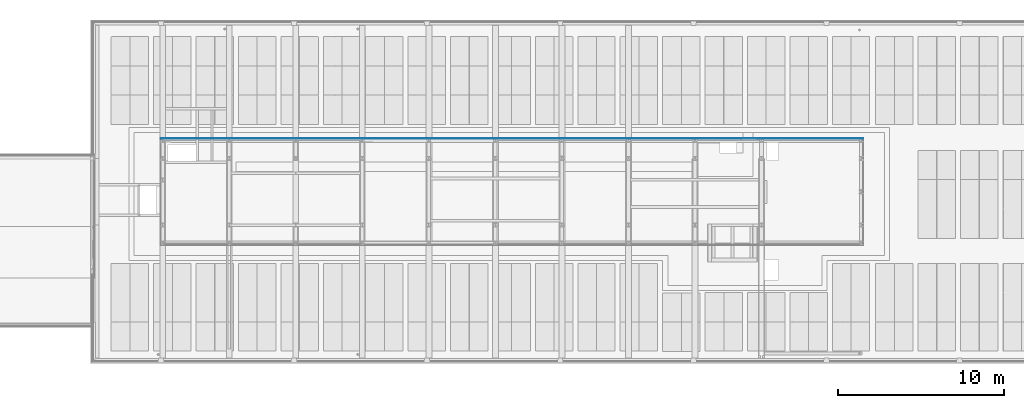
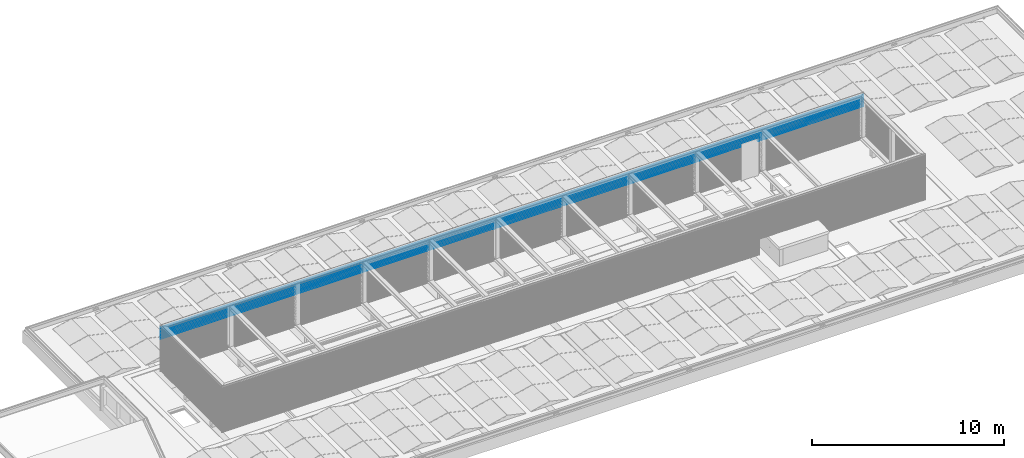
# One storey, part 48 of 63: 9 building element parts, 1 opening, 1 element without a shape of its own.
"""IFC2X3 building model written with IfcOpenShell, lengths in millimetres."""

from ifc_helpers import new_model, entity, si_unit, converted_unit, derived_unit, money_unit, direction, frame, origin_with_axes, place, context, subcontext, project, spatial, faceted_brep, material, type_object, element, aggregate, save


model = new_model("IFC2X3")

# Units and contexts
model_context = context("Model", 3, precision=0.01, world=origin_with_axes(), true_north=direction((0.0, 1.0)))
body_context = subcontext(model_context, "Body", "Model", "MODEL_VIEW")
ifc_project = project(units=[si_unit("LENGTHUNIT", "METRE", prefix="MILLI"), si_unit("AREAUNIT", "SQUARE_METRE"), si_unit("VOLUMEUNIT", "CUBIC_METRE"), converted_unit("PLANEANGLEUNIT", "DEGREE", entity("IfcPlaneAngleMeasure", 0.0174532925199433), si_unit("PLANEANGLEUNIT", "RADIAN"), dimensions=[0, 0, 0, 0, 0, 0, 0]), money_unit("EUR"), converted_unit("TIMEUNIT", "Year", entity("IfcTimeMeasure", 31557600.0), si_unit("TIMEUNIT", "SECOND"), dimensions=[0, 0, 1, 0, 0, 0, 0]), si_unit("MASSUNIT", "GRAM", prefix="KILO"), si_unit("THERMODYNAMICTEMPERATUREUNIT", "DEGREE_CELSIUS"), si_unit("LUMINOUSINTENSITYUNIT", "LUMEN"), si_unit("ENERGYUNIT", "JOULE", prefix="MEGA"), derived_unit("THERMALCONDUCTANCEUNIT", [(si_unit("POWERUNIT", "WATT"), 1), (si_unit("LENGTHUNIT", "METRE"), -1), (si_unit("THERMODYNAMICTEMPERATUREUNIT", "KELVIN"), -1)]), derived_unit("SPECIFICHEATCAPACITYUNIT", [(si_unit("ENERGYUNIT", "JOULE"), 1), (si_unit("MASSUNIT", "GRAM", prefix="KILO"), -1), (si_unit("THERMODYNAMICTEMPERATUREUNIT", "KELVIN"), -1)]), derived_unit("MASSDENSITYUNIT", [(si_unit("MASSUNIT", "GRAM", prefix="KILO"), 1), (si_unit("VOLUMEUNIT", "CUBIC_METRE"), -1)])], contexts=[model_context])

# Site, building, storey
site_placement = place(None, origin_with_axes())
site = spatial("IfcSite", under=ifc_project, at=site_placement, Name="<site naam>", CompositionType="ELEMENT")
building_placement = place(site_placement, origin_with_axes())
building = spatial("IfcBuilding", under=site, at=building_placement, Name="<Naam gebouw>", CompositionType="ELEMENT")
storey_placement = place(building_placement, frame((0.0, 0.0, 12770.0), z_axis=(0.0, 0.0, 1.0), x_axis=(1.0, 0.0, 0.0)))
storey = spatial("IfcBuildingStorey", under=building, at=storey_placement, Name="04 4e verdieping", CompositionType="ELEMENT", Elevation=12770.0)

# Wall, opening, building element parts
wall_type = type_object("IfcWallType", Name="Gevelbeplating golf 18 x 2900", PredefinedType="NOTDEFINED")
wall_placement = place(storey_placement, frame((58128.00007858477, 13218.00009009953, 299.9552842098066), z_axis=(0.0, 0.0, 1.0), x_axis=(-1.0, 0.0, 0.0)))
wall = element("IfcWall", 1, at=wall_placement, inside=storey, type_object=wall_type, Name="47_Binnenwand_Gevelbeplating")
opening_placement = place(wall_placement, frame((6856.073474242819, 0.0, -120.0392154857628), z_axis=(0.0, 0.0, 1.0), x_axis=(1.0, 0.0, 0.0)))
element("IfcOpeningElement", 2, at=opening_placement, cuts=wall, Name="47_BU-F-02_305", context=body_context, shape_type="Brep", body=[
    faceted_brep([(517.000000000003, 19.00000000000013, 2367.000000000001), (517.000000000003, 19.00000000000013, 0.0), (-517.000000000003, 19.00000000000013, 0.0), (-517.000000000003, 19.00000000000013, 2367.000000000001), (517.000000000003, -1.000078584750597, 2367.000000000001), (517.000000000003, -1.000078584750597, 0.0), (-517.000000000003, -1.000078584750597, 0.0), (-517.000000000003, -1.000078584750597, 2367.000000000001)], [[[0, 1, 2, 3]], [[4, 5, 1, 0]], [[5, 6, 2, 1]], [[6, 7, 3, 2]], [[7, 4, 0, 3]], [[6, 5, 4, 7]]]),
])
ifc_material = material(Name="gevelafwerking type 3 - Aluminium RAL1036")
building_element_part_1_placement = place(wall_placement, origin_with_axes())
building_element_part_1 = element("IfcBuildingElementPart", 3, at=building_element_part_1_placement, material=ifc_material, Name="gevelafwerking type 3 - Aluminium RAL1036", context=body_context, shape_type="Brep", body=[
    faceted_brep([(18238.00007858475, 15.62920572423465, 2062.684488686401), (18238.00007858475, 10.1433027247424, 2069.96243505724), (18018.00007858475, 10.1433027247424, 2069.96243505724), (18018.00007858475, 15.62920572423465, 2062.684488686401), (15.6292057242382, 15.62920572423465, 2062.684488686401), (9.04152651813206, 9.041526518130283, 2071.42412115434), (42247.79070067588, 9.04152651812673, 2071.42412115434), (42247.44499411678, 9.398075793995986, 2070.951100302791), (42241.4560019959, 15.62920572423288, 2062.684488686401), (18238.00007858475, 17.9999428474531, 2051.999995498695), (18238.00007858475, 16.99994046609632, 2051.999995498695), (18238.00007858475, 14.77513994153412, 2062.365676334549), (18238.00007858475, 10.1433027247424, 2068.759027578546), (18018.00007858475, 10.1433027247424, 2068.759027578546), (18018.00007858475, 14.77513994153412, 2062.365676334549), (18018.00007858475, 16.99994046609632, 2051.999995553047), (18018.00007858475, 17.9999428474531, 2051.999995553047), (17.9999428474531, 17.9999428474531, 2052.0), (15.6292057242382, 14.54416758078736, 2062.684488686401), (9.398075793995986, 8.555195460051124, 2070.951100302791), (9.04152651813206, 8.209483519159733, 2071.42412115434), (42253.7428684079, 3.340076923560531, 2079.568199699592), (3.116421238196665, 3.116421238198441, 2079.88767449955), (42253.81199652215, 3.116421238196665, 2079.88767449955), (42253.7428684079, 2.257301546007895, 2079.568199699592), (42247.44499411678, 8.555195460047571, 2070.951100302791), (42241.22502892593, 14.77513994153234, 2062.365676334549), (42241.22502892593, 15.69994568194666, 2062.365676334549), (42239.00022979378, 17.99994284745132, 2051.999989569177), (42239.00022979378, 16.99994046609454, 2051.999989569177), (15.69994568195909, 14.7751399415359, 2062.365676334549), (17.9999428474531, 16.9999404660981, 2052.0), (3.340076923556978, 2.257301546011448, 2079.568199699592), (3.116421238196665, 2.188169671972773, 2079.88767449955), (42256.00025512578, 0.9999428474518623, 2090.000002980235), (0.9999428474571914, 0.9999428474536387, 2090.0), (42256.00025512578, -5.715254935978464e-05, 2090.000002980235), (0.9999428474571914, -5.715254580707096e-05, 2090.0)], [[[0, 1, 2, 3, 4, 5, 6, 7, 8]], [[1, 0, 9, 10, 11, 12]], [[2, 1, 12, 13]], [[3, 2, 13, 14, 15, 16]], [[3, 16, 17, 4]], [[4, 18, 19, 20, 5]], [[21, 6, 5, 22, 23]], [[24, 25, 7, 6, 21]], [[25, 26, 27, 8, 7]], [[9, 0, 8, 27, 28]], [[10, 9, 28, 29]], [[11, 10, 29, 26]], [[12, 11, 26, 25, 19, 18, 30, 14, 13]], [[15, 14, 30, 31]], [[16, 15, 31, 17]], [[17, 31, 30, 18, 4]], [[24, 32, 20, 19, 25]], [[5, 20, 32, 33, 22]], [[34, 23, 22, 35]], [[36, 24, 21, 23, 34]], [[27, 26, 29, 28]], [[36, 37, 33, 32, 24]], [[35, 22, 33, 37]], [[36, 34, 35, 37]]]),
])
building_element_part_2_placement = place(wall_placement, origin_with_axes())
building_element_part_2 = element("IfcBuildingElementPart", 4, at=building_element_part_2_placement, material=ifc_material, Name="gevelafwerking type 3 - Aluminium RAL1036", context=body_context, shape_type="Brep", body=[
    faceted_brep([(18238.00007858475, 15.62920334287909, 2138.684488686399), (18238.00007858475, 10.1433027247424, 2145.962431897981), (18018.00007858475, 10.1433027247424, 2145.962431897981), (18018.00007858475, 15.62920334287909, 2138.684488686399), (15.62920334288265, 15.62920334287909, 2138.684488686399), (9.041524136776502, 9.041524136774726, 2147.424121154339), (42247.79068574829, 9.041524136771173, 2147.424121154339), (42247.44499411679, 9.398053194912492, 2146.951127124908), (42241.45598256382, 15.62920334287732, 2138.684488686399), (18238.00007858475, 17.99994046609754, 2128.000007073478), (18238.00007858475, 16.99993808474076, 2128.000007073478), (18238.00007858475, 14.77513756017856, 2138.365703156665), (18238.00007858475, 10.1433027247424, 2144.759051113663), (18018.00007858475, 10.1433027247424, 2144.759051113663), (18018.00007858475, 14.77513756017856, 2138.365703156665), (18018.00007858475, 16.99993808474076, 2128.000006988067), (18018.00007858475, 17.99994046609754, 2128.000006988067), (17.99994046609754, 17.99994046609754, 2127.999999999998), (15.62920334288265, 14.54418463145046, 2138.684488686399), (9.398053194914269, 8.55519307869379, 2146.951127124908), (9.041524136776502, 8.209500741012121, 2147.424121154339), (42253.74287308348, 3.340055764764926, 2155.568226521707), (3.116418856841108, 3.116418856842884, 2155.887674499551), (42253.81200006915, 3.116418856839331, 2155.887674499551), (42253.74287308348, 2.257299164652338, 2155.568226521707), (42247.44499411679, 8.555193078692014, 2146.951127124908), (42241.22502892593, 15.69993734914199, 2138.365703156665), (42241.22502892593, 14.77513756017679, 2138.365703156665), (42239.00022979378, 17.99994046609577, 2128.000016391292), (42239.00022979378, 16.99993808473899, 2128.000016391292), (15.69993734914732, 14.77513756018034, 2138.365703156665), (17.99994046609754, 16.99993808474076, 2127.999999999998), (3.340055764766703, 2.257299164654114, 2155.568226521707), (3.116418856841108, 2.188173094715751, 2155.887674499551), (42256.00025512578, 0.9999404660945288, 2165.999986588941), (0.9999404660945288, 0.9999404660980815, 2165.999999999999), (42256.00025512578, -5.953390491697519e-05, 2165.999986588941), (0.9999404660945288, -5.953390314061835e-05, 2165.999999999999)], [[[0, 1, 2, 3, 4, 5, 6, 7, 8]], [[1, 0, 9, 10, 11, 12]], [[2, 1, 12, 13]], [[3, 2, 13, 14, 15, 16]], [[3, 16, 17, 4]], [[4, 18, 19, 20, 5]], [[21, 6, 5, 22, 23]], [[7, 6, 21, 24, 25]], [[26, 8, 7, 25, 27]], [[9, 0, 8, 26, 28]], [[10, 9, 28, 29]], [[11, 10, 29, 27]], [[12, 11, 27, 25, 19, 18, 30, 14, 13]], [[15, 14, 30, 31]], [[16, 15, 31, 17]], [[17, 31, 30, 18, 4]], [[24, 32, 20, 19, 25]], [[5, 20, 32, 33, 22]], [[34, 23, 22, 35]], [[21, 23, 34, 36, 24]], [[29, 28, 26, 27]], [[36, 37, 33, 32, 24]], [[35, 22, 33, 37]], [[36, 34, 35, 37]]]),
])
building_element_part_3_placement = place(wall_placement, origin_with_axes())
building_element_part_3 = element("IfcBuildingElementPart", 5, at=building_element_part_3_placement, material=ifc_material, Name="gevelafwerking type 3 - Aluminium RAL1036", context=body_context, shape_type="Brep", body=[
    faceted_brep([(18238.00007858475, 15.62920096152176, 2214.6844886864), (18238.00007858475, 10.1433027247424, 2221.962428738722), (18018.00007858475, 10.1433027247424, 2221.962428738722), (18018.00007858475, 15.62920096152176, 2214.6844886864), (15.62920096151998, 15.62920096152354, 2214.6844886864), (9.041521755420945, 9.041521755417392, 2223.424121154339), (42247.79069305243, 9.041521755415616, 2223.424121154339), (42247.44499411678, 9.398063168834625, 2222.951110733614), (42241.45599443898, 15.62920096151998, 2214.6844886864), (18238.00007858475, 17.99993808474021, 2203.999999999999), (18238.00007858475, 16.9999357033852, 2203.999999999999), (18238.00007858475, 14.77513517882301, 2214.365686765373), (18238.00007858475, 10.1433027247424, 2220.759031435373), (18018.00007858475, 10.1433027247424, 2220.759031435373), (18018.00007858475, 14.77513517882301, 2214.365686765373), (18018.00007858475, 16.9999357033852, 2203.999999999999), (18018.00007858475, 17.99993808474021, 2203.999999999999), (17.99993808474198, 17.99993808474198, 2203.999999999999), (15.62920096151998, 14.5441703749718, 2214.6844886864), (9.398063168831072, 8.555190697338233, 2222.951110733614), (9.041521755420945, 8.209486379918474, 2223.424121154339), (42253.7428684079, 3.340064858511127, 2231.568210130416), (3.116416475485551, 3.116416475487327, 2231.887674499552), (42253.81198958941, 3.116416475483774, 2231.887674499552), (42253.7428684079, 2.257296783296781, 2231.568210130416), (42247.44499411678, 8.555190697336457, 2222.951110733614), (42241.22502892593, 14.77513517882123, 2214.365686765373), (42241.22502892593, 15.69993860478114, 2214.365686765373), (42239.00022979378, 17.99993808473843, 2203.999999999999), (42239.00022979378, 16.99993570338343, 2203.999999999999), (15.69993860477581, 14.77513517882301, 2214.365686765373), (17.99993808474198, 16.9999357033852, 2203.999999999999), (3.340064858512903, 2.257296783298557, 2231.568210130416), (3.116416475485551, 2.188167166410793, 2231.887674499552), (42256.00025045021, 0.9999380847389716, 2242.000013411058), (0.9999380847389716, 0.999938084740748, 2241.999999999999), (42256.00025045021, -6.191526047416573e-05, 2242.000013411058), (0.9999380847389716, -6.19152586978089e-05, 2241.999999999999)], [[[0, 1, 2, 3, 4, 5, 6, 7, 8]], [[1, 0, 9, 10, 11, 12]], [[2, 1, 12, 13]], [[3, 2, 13, 14, 15, 16]], [[3, 16, 17, 4]], [[4, 18, 19, 20, 5]], [[21, 6, 5, 22, 23]], [[24, 25, 7, 6, 21]], [[25, 26, 27, 8, 7]], [[9, 0, 8, 27, 28]], [[10, 9, 28, 29]], [[11, 10, 29, 26]], [[12, 11, 26, 25, 19, 18, 30, 14, 13]], [[15, 14, 30, 31]], [[16, 15, 31, 17]], [[17, 31, 30, 18, 4]], [[24, 32, 20, 19, 25]], [[5, 20, 32, 33, 22]], [[34, 23, 22, 35]], [[36, 24, 21, 23, 34]], [[27, 26, 29, 28]], [[36, 37, 33, 32, 24]], [[35, 22, 33, 37]], [[36, 34, 35, 37]]]),
])
building_element_part_4_placement = place(wall_placement, origin_with_axes())
building_element_part_4 = element("IfcBuildingElementPart", 6, at=building_element_part_4_placement, material=ifc_material, Name="gevelafwerking type 3 - Aluminium RAL1036", context=body_context, shape_type="Brep", body=[
    faceted_brep([(18238.00007858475, 15.6291985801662, 2290.684488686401), (18238.00007858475, 10.1433027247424, 2297.962425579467), (18018.00007858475, 10.1433027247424, 2297.962425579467), (18018.00007858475, 15.6291985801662, 2290.684488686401), (15.62919858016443, 15.62919858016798, 2290.684488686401), (9.041519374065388, 9.041519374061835, 2299.42412115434), (42247.79070503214, 9.041519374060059, 2299.42412115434), (42247.44499411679, 9.398073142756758, 2298.951094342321), (42241.45600631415, 15.62919858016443, 2290.684488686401), (18238.00007858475, 17.99993570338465, 2279.999992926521), (18238.00007858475, 16.99993332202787, 2279.999992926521), (18238.00007858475, 14.77513279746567, 2290.365670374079), (18238.00007858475, 10.1433027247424, 2296.75901175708), (18018.00007858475, 10.1433027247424, 2296.75901175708), (18018.00007858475, 14.77513279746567, 2290.365670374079), (18018.00007858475, 16.99993332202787, 2279.999993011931), (18018.00007858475, 17.99993570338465, 2279.999993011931), (17.99993570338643, 17.99993570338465, 2280.0), (15.62919858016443, 14.54415611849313, 2290.684488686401), (9.398073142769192, 8.5551883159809, 2298.951094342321), (9.041519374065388, 8.20947201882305, 2299.42412115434), (42253.7428684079, 3.340073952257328, 2307.568193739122), (3.116414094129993, 3.116414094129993, 2307.887674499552), (42253.81199781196, 3.116414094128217, 2307.887674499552), (42253.7428684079, 2.257294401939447, 2307.568193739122), (42247.44499411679, 8.555188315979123, 2298.951094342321), (42241.22502892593, 14.7751327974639, 2290.365670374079), (42241.22502892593, 15.69993986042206, 2290.365670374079), (42239.00022979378, 17.99993570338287, 2279.999983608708), (42239.00022979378, 16.9999333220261, 2279.999983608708), (15.6999398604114, 14.77513279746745, 2290.365670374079), (17.99993570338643, 16.99993332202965, 2280.0), (3.340073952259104, 2.257294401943, 2307.568193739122), (3.116414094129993, 2.188161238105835, 2307.887674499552), (42256.00025512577, 0.9999357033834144, 2317.999997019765), (0.9999357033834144, 0.9999357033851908, 2318.0), (42256.00025512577, -6.429661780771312e-05, 2317.999997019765), (0.9999357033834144, -6.429661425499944e-05, 2318.0)], [[[0, 1, 2, 3, 4, 5, 6, 7, 8]], [[1, 0, 9, 10, 11, 12]], [[2, 1, 12, 13]], [[3, 2, 13, 14, 15, 16]], [[3, 16, 17, 4]], [[4, 18, 19, 20, 5]], [[21, 6, 5, 22, 23]], [[24, 25, 7, 6, 21]], [[25, 26, 27, 8, 7]], [[9, 0, 8, 27, 28]], [[10, 9, 28, 29]], [[11, 10, 29, 26]], [[12, 11, 26, 25, 19, 18, 30, 14, 13]], [[15, 14, 30, 31]], [[16, 15, 31, 17]], [[17, 31, 30, 18, 4]], [[24, 32, 20, 19, 25]], [[5, 20, 32, 33, 22]], [[34, 23, 22, 35]], [[36, 24, 21, 23, 34]], [[27, 26, 29, 28]], [[36, 37, 33, 32, 24]], [[35, 22, 33, 37]], [[36, 34, 35, 37]]]),
])
building_element_part_5_placement = place(wall_placement, origin_with_axes())
building_element_part_5 = element("IfcBuildingElementPart", 7, at=building_element_part_5_placement, material=ifc_material, Name="gevelafwerking type 3 - Aluminium RAL1036", context=body_context, shape_type="Brep", body=[
    faceted_brep([(18238.00007858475, 15.62919143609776, 2518.6844886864), (18238.00007858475, 10.1433027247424, 2525.962416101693), (18018.00007858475, 10.1433027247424, 2525.962416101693), (18018.00007858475, 15.62919143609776, 2518.6844886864), (15.62919143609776, 15.62919143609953, 2518.6844886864), (9.04151222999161, 9.041512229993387, 2527.42412115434), (42247.79071233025, 9.04151222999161, 2527.42412115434), (42247.44499411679, 9.398070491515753, 2526.951088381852), (42241.45605224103, 15.62919143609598, 2518.6844886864), (18238.00007858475, 17.9999285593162, 2508.000009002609), (18238.00007858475, 16.99992617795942, 2508.000009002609), (18238.00007858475, 14.775125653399, 2518.365664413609), (18238.00007858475, 10.1433027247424, 2524.758995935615), (18018.00007858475, 10.1433027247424, 2524.758995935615), (18018.00007858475, 14.775125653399, 2518.365664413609), (18018.00007858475, 16.99992617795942, 2508.000008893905), (18018.00007858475, 17.9999285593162, 2508.000008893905), (17.99992855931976, 17.9999285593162, 2507.999999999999), (15.62919143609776, 14.54414465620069, 2518.6844886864), (9.398070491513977, 8.555181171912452, 2526.951088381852), (9.04151222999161, 8.209460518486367, 2527.42412115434), (42253.74287308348, 3.340040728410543, 2535.568230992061), (3.116406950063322, 3.116406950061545, 2535.88767449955), (42253.81199910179, 3.116406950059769, 2535.88767449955), (42253.74287308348, 2.257287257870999, 2535.568230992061), (42247.44499411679, 8.555181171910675, 2526.951088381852), (42241.22506750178, 14.77512565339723, 2518.365664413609), (42241.22506750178, 15.69993403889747, 2518.365664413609), (42239.00022979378, 17.99992855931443, 2508.000020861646), (42239.00022979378, 16.99992617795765, 2508.000020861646), (15.69993403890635, 14.775125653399, 2518.365664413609), (17.99992855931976, 16.9999261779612, 2507.999999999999), (3.340040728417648, 2.257287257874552, 2535.568230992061), (3.116406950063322, 2.188162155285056, 2535.88767449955), (42256.00025512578, 0.9999285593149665, 2545.999991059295), (0.9999285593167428, 0.9999285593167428, 2546.0), (42256.00025512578, -7.14406862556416e-05, 2545.999991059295), (0.9999285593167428, -7.144068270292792e-05, 2546.0)], [[[0, 1, 2, 3, 4, 5, 6, 7, 8]], [[1, 0, 9, 10, 11, 12]], [[2, 1, 12, 13]], [[3, 2, 13, 14, 15, 16]], [[3, 16, 17, 4]], [[4, 18, 19, 20, 5]], [[21, 6, 5, 22, 23]], [[24, 25, 7, 6, 21]], [[25, 26, 27, 8, 7]], [[9, 0, 8, 27, 28]], [[10, 9, 28, 29]], [[11, 10, 29, 26]], [[12, 11, 26, 25, 19, 18, 30, 14, 13]], [[15, 14, 30, 31]], [[16, 15, 31, 17]], [[17, 31, 30, 18, 4]], [[24, 32, 20, 19, 25]], [[5, 20, 32, 33, 22]], [[34, 23, 22, 35]], [[36, 24, 21, 23, 34]], [[27, 26, 29, 28]], [[36, 37, 33, 32, 24]], [[35, 22, 33, 37]], [[36, 34, 35, 37]]]),
])
building_element_part_6_placement = place(wall_placement, origin_with_axes())
building_element_part_6 = element("IfcBuildingElementPart", 8, at=building_element_part_6_placement, material=ifc_material, Name="gevelafwerking type 3 - Aluminium RAL1036", context=body_context, shape_type="Brep", body=[
    faceted_brep([(18238.00007858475, 15.62919619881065, 2366.684488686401), (18238.00007858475, 10.1433027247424, 2373.96242242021), (18018.00007858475, 10.1433027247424, 2373.96242242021), (18018.00007858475, 15.62919619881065, 2366.684488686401), (15.62919619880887, 15.62919619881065, 2366.684488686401), (9.041516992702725, 9.041516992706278, 2375.42412115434), (42247.79069010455, 9.041516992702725, 2375.42412115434), (42247.44499411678, 9.398050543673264, 2374.951121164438), (42241.45598688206, 15.62919619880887, 2366.684488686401), (18238.00007858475, 17.99993332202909, 2356.000004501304), (18238.00007858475, 16.99993094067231, 2356.000004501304), (18238.00007858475, 14.77513041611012, 2366.365697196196), (18238.00007858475, 10.1433027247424, 2372.759035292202), (18018.00007858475, 10.1433027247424, 2372.759035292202), (18018.00007858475, 14.77513041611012, 2366.365697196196), (18018.00007858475, 16.99993094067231, 2356.000004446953), (18018.00007858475, 17.99993332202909, 2356.000004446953), (17.99993332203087, 17.99993332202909, 2356.0), (15.62919619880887, 14.54417316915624, 2366.684488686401), (9.398050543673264, 8.555185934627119, 2374.951121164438), (9.041516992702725, 8.209489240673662, 2375.42412115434), (42253.74287308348, 3.340052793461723, 2383.568220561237), (3.116411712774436, 3.116411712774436, 2383.887674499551), (42253.81200135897, 3.11641171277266, 2383.887674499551), (42253.74287308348, 2.25729202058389, 2383.568220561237), (42247.44499411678, 8.555185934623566, 2374.951121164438), (42241.22502892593, 15.69993152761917, 2366.365697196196), (42241.22502892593, 14.77513041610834, 2366.365697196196), (42239.00022979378, 17.99993332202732, 2356.000010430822), (42239.00022979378, 16.99993094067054, 2356.000010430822), (15.69993152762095, 14.77513041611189, 2366.365697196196), (17.99993332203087, 16.99993094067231, 2356.0), (3.340052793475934, 2.257292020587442, 2383.568220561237), (3.116411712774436, 2.188164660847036, 2383.887674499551), (42256.00025512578, 0.9999333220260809, 2393.999980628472), (0.9999333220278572, 0.9999333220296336, 2394.0), (42256.00025512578, -6.667797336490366e-05, 2393.999980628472), (0.9999333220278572, -6.667797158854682e-05, 2394.0)], [[[0, 1, 2, 3, 4, 5, 6, 7, 8]], [[1, 0, 9, 10, 11, 12]], [[2, 1, 12, 13]], [[3, 2, 13, 14, 15, 16]], [[3, 16, 17, 4]], [[4, 18, 19, 20, 5]], [[21, 6, 5, 22, 23]], [[7, 6, 21, 24, 25]], [[26, 8, 7, 25, 27]], [[9, 0, 8, 26, 28]], [[10, 9, 28, 29]], [[11, 10, 29, 27]], [[12, 11, 27, 25, 19, 18, 30, 14, 13]], [[15, 14, 30, 31]], [[16, 15, 31, 17]], [[17, 31, 30, 18, 4]], [[24, 32, 20, 19, 25]], [[5, 20, 32, 33, 22]], [[34, 23, 22, 35]], [[21, 23, 34, 36, 24]], [[29, 28, 26, 27]], [[36, 37, 33, 32, 24]], [[35, 22, 33, 37]], [[36, 34, 35, 37]]]),
])
building_element_part_7_placement = place(wall_placement, origin_with_axes())
building_element_part_7 = element("IfcBuildingElementPart", 9, at=building_element_part_7_placement, material=ifc_material, Name="gevelafwerking type 3 - Aluminium RAL1036", context=body_context, shape_type="Brep", body=[
    faceted_brep([(18238.00007858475, 15.62919381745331, 2442.6844886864), (18238.00007858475, 10.1433027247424, 2449.962419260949), (18018.00007858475, 10.1433027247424, 2449.962419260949), (18018.00007858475, 15.62919381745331, 2442.6844886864), (15.62919381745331, 15.62919381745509, 2442.6844886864), (9.041514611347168, 9.041514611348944, 2451.424121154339), (42247.79069740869, 9.041514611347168, 2451.424121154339), (42247.44499411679, 9.39806051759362, 2450.951104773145), (42241.45599875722, 15.62919381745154, 2442.6844886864), (18238.00007858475, 17.99993094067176, 2431.999997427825), (18238.00007858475, 16.99992855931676, 2431.999997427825), (18238.00007858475, 14.77512803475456, 2442.365680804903), (18238.00007858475, 10.1433027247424, 2448.759015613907), (18018.00007858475, 10.1433027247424, 2448.759015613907), (18018.00007858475, 14.77512803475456, 2442.365680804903), (18018.00007858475, 16.99992855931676, 2431.999997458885), (18018.00007858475, 17.99993094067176, 2431.999997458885), (17.99993094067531, 17.99993094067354, 2432.0), (15.62919381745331, 14.54415891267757, 2442.6844886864), (9.398060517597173, 8.555183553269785, 2450.951104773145), (9.041514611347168, 8.20947487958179, 2451.424121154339), (42253.7428684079, 3.340061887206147, 2459.568204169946), (3.116409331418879, 3.116409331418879, 2459.887674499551), (42253.81199555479, 3.116409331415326, 2459.887674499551), (42253.7428684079, 2.257289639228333, 2459.568204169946), (42247.44499411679, 8.555183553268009, 2450.951104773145), (42241.22502892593, 14.77512803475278, 2442.365680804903), (42241.22502892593, 15.69993278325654, 2442.365680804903), (42239.00022979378, 17.99993094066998, 2431.999994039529), (42239.00022979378, 16.99992855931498, 2431.999994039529), (15.69993278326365, 14.77512803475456, 2442.365680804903), (17.99993094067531, 16.99992855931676, 2432.0), (3.340061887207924, 2.257289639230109, 2459.568204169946), (3.116409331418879, 2.188158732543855, 2459.887674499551), (42256.00025512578, 0.9999309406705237, 2470.000007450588), (0.9999309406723, 0.9999309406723, 2469.999999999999), (42256.00025512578, -6.905932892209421e-05, 2470.000007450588), (0.9999309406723, -6.905932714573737e-05, 2469.999999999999)], [[[0, 1, 2, 3, 4, 5, 6, 7, 8]], [[1, 0, 9, 10, 11, 12]], [[2, 1, 12, 13]], [[3, 2, 13, 14, 15, 16]], [[3, 16, 17, 4]], [[4, 18, 19, 20, 5]], [[21, 6, 5, 22, 23]], [[24, 25, 7, 6, 21]], [[25, 26, 27, 8, 7]], [[9, 0, 8, 27, 28]], [[10, 9, 28, 29]], [[11, 10, 29, 26]], [[12, 11, 26, 25, 19, 18, 30, 14, 13]], [[15, 14, 30, 31]], [[16, 15, 31, 17]], [[17, 31, 30, 18, 4]], [[24, 32, 20, 19, 25]], [[5, 20, 32, 33, 22]], [[34, 23, 22, 35]], [[36, 24, 21, 23, 34]], [[27, 26, 29, 28]], [[36, 37, 33, 32, 24]], [[35, 22, 33, 37]], [[36, 34, 35, 37]]]),
])
building_element_part_8_placement = place(wall_placement, origin_with_axes())
building_element_part_8 = element("IfcBuildingElementPart", 10, at=building_element_part_8_placement, material=ifc_material, Name="gevelafwerking type 3 - Aluminium RAL1036", context=body_context, shape_type="Brep", body=[
    faceted_brep([(18238.00007858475, 15.6291890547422, 2594.684488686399), (18238.00007858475, 10.1433027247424, 2601.962412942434), (18018.00007858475, 10.1433027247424, 2601.962412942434), (18018.00007858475, 15.6291890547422, 2594.684488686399), (15.6291890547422, 15.6291890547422, 2594.684488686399), (9.041509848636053, 9.04150984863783, 2603.424121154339), (42247.79068978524, 9.041509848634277, 2603.424121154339), (42247.44499411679, 9.39804789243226, 2602.951115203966), (42241.4560328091, 15.62918905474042, 2594.684488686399), (18238.00007858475, 17.99992617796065, 2584.00000192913), (18238.00007858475, 16.99992379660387, 2584.00000192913), (18238.00007858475, 14.77512327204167, 2594.365691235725), (18238.00007858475, 10.1433027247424, 2600.759019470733), (18018.00007858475, 10.1433027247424, 2600.759019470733), (18018.00007858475, 14.77512327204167, 2594.365691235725), (18018.00007858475, 16.99992379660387, 2584.000001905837), (18018.00007858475, 17.99992617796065, 2584.000001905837), (17.9999261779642, 17.99992617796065, 2584.0), (15.6291890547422, 14.54416170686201, 2594.684488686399), (9.39804789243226, 8.555178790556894, 2602.951115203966), (9.041509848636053, 8.209477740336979, 2603.424121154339), (42253.7428684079, 3.34004982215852, 2611.568214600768), (3.116404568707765, 3.116404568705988, 2611.887674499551), (42253.81198862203, 3.116404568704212, 2611.887674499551), (42253.7428684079, 2.257284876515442, 2611.568214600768), (42247.44499411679, 8.555178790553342, 2602.951115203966), (42241.22507213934, 14.77512327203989, 2594.365691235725), (42241.22507213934, 15.69992570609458, 2594.365691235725), (42239.00027300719, 17.99992617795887, 2584.000004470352), (42239.00027300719, 16.99992379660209, 2584.000004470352), (15.69992570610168, 14.77512327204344, 2594.365691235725), (17.9999261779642, 16.99992379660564, 2584.0), (3.340049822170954, 2.257284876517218, 2611.568214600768), (3.116404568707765, 2.188156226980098, 2611.887674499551), (42256.0002504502, 0.999926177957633, 2622.00001788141), (0.9999261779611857, 0.9999261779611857, 2622.0), (42256.0002504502, -7.382204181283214e-05, 2622.00001788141), (0.9999261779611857, -7.382203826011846e-05, 2622.0)], [[[0, 1, 2, 3, 4, 5, 6, 7, 8]], [[1, 0, 9, 10, 11, 12]], [[2, 1, 12, 13]], [[3, 2, 13, 14, 15, 16]], [[3, 16, 17, 4]], [[4, 18, 19, 20, 5]], [[21, 6, 5, 22, 23]], [[24, 25, 7, 6, 21]], [[25, 26, 27, 8, 7]], [[9, 0, 8, 27, 28]], [[10, 9, 28, 29]], [[11, 10, 29, 26]], [[12, 11, 26, 25, 19, 18, 30, 14, 13]], [[15, 14, 30, 31]], [[16, 15, 31, 17]], [[17, 31, 30, 18, 4]], [[24, 32, 20, 19, 25]], [[5, 20, 32, 33, 22]], [[34, 23, 22, 35]], [[36, 24, 21, 23, 34]], [[27, 26, 29, 28]], [[36, 37, 33, 32, 24]], [[35, 22, 33, 37]], [[36, 34, 35, 37]]]),
])
building_element_part_9_placement = place(wall_placement, origin_with_axes())
building_element_part_9 = element("IfcBuildingElementPart", 11, at=building_element_part_9_placement, material=ifc_material, Name="gevelafwerking type 3 - Aluminium RAL1036", context=body_context, shape_type="Brep", body=[
    faceted_brep([(18238.00007858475, 15.62918667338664, 2746.6844886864), (18238.00007858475, 10.1433027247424, 2753.962409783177), (18018.00007858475, 10.1433027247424, 2753.962409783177), (18018.00007858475, 15.62918667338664, 2746.6844886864), (15.62918667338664, 15.62918667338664, 2746.6844886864), (9.041507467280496, 9.041507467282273, 2755.424121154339), (42247.79068683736, 9.04150746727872, 2755.424121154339), (42247.44499411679, 9.398037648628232, 2754.95112563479), (42241.45602525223, 15.62918667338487, 2746.6844886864), (18238.00007858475, 17.99992379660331, 2736.000006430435), (18238.00007858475, 16.99992141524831, 2736.000006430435), (18238.00007858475, 14.77512089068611, 2746.365701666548), (18238.00007858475, 10.1433027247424, 2752.759026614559), (18018.00007858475, 10.1433027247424, 2752.759026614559), (18018.00007858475, 14.77512089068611, 2746.365701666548), (18018.00007858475, 16.99992141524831, 2736.000006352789), (18018.00007858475, 17.99992379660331, 2736.000006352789), (17.99992379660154, 17.99992379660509, 2735.999999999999), (15.62918667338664, 14.54416688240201, 2746.6844886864), (9.398037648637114, 8.555176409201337, 2754.95112563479), (9.041507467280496, 8.209482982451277, 2755.424121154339), (42253.74287308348, 3.340040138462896, 2763.568225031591), (3.116402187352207, 3.116402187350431, 2763.887674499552), (42253.8120003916, 3.116402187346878, 2763.887674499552), (42253.74287308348, 2.257282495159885, 2763.568225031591), (42247.44499411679, 8.55517640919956, 2754.95112563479), (42241.22507213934, 15.69992101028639, 2746.365701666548), (42241.22507213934, 14.77512089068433, 2746.365701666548), (42239.00027300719, 17.99992379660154, 2736.000014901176), (42239.00027300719, 16.99992141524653, 2736.000014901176), (15.69992101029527, 14.77512089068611, 2746.365701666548), (17.99992379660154, 16.99992141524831, 2735.999999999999), (3.340040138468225, 2.257282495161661, 2763.568225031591), (3.116402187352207, 2.188156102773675, 2763.887674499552), (42256.00025512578, 0.9999237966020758, 2773.999985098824), (0.9999237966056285, 0.9999237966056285, 2773.999999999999), (42256.00025512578, -7.620339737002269e-05, 2773.999985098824), (0.9999237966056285, -7.620339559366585e-05, 2773.999999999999)], [[[0, 1, 2, 3, 4, 5, 6, 7, 8]], [[1, 0, 9, 10, 11, 12]], [[2, 1, 12, 13]], [[3, 2, 13, 14, 15, 16]], [[3, 16, 17, 4]], [[4, 18, 19, 20, 5]], [[21, 6, 5, 22, 23]], [[7, 6, 21, 24, 25]], [[26, 8, 7, 25, 27]], [[9, 0, 8, 26, 28]], [[10, 9, 28, 29]], [[11, 10, 29, 27]], [[12, 11, 27, 25, 19, 18, 30, 14, 13]], [[15, 14, 30, 31]], [[16, 15, 31, 17]], [[17, 31, 30, 18, 4]], [[24, 32, 20, 19, 25]], [[5, 20, 32, 33, 22]], [[34, 23, 22, 35]], [[21, 23, 34, 36, 24]], [[29, 28, 26, 27]], [[36, 37, 33, 32, 24]], [[35, 22, 33, 37]], [[36, 34, 35, 37]]]),
])
aggregate(wall, [building_element_part_1, building_element_part_2, building_element_part_3, building_element_part_4, building_element_part_5, building_element_part_6, building_element_part_7, building_element_part_8, building_element_part_9])

save(model, "model.ifc")
